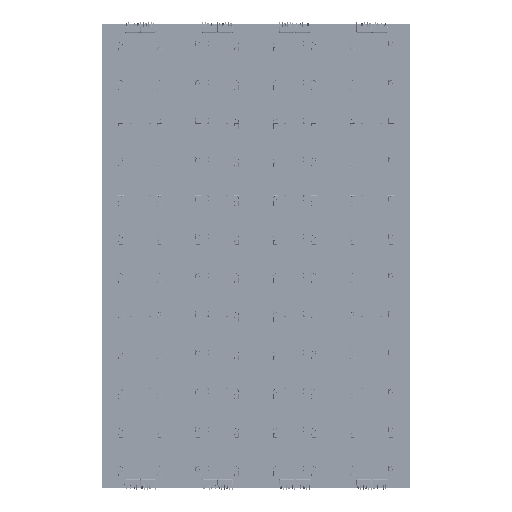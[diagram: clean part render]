
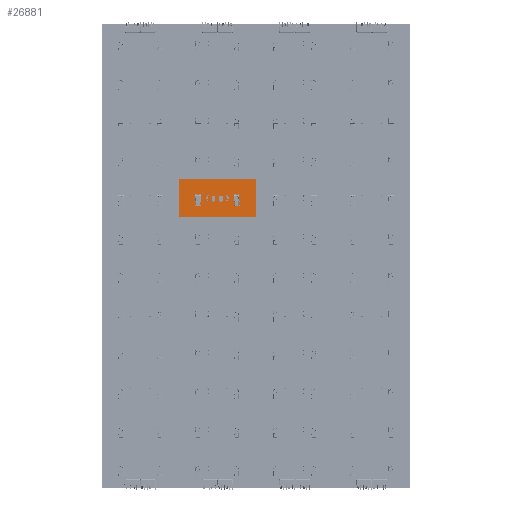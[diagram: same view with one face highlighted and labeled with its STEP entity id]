
A CAD part, top view. The second image highlights one B-rep face of the part: STEP entity #26881.
In plain terms, the highlighted planar face has unit normal (0, 0, 1).
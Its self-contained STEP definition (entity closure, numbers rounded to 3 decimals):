
#8459 = FACE_OUTER_BOUND ( 'NONE', #143407, .T. ) ;
#11867 = VECTOR ( 'NONE', #58748, 1000. ) ;
#24620 = DIRECTION ( 'NONE',  ( 0., 0., 1. ) ) ;
#26881 = ADVANCED_FACE ( 'NONE', ( #8459 ), #74662, .T. ) ;
#26909 = VECTOR ( 'NONE', #49569, 1000. ) ;
#27643 = LINE ( 'NONE', #73871, #116413 ) ;
#34205 = DIRECTION ( 'NONE',  ( 1., 0., 0. ) ) ;
#34643 = VERTEX_POINT ( 'NONE', #144884 ) ;
#35903 = LINE ( 'NONE', #37334, #128207 ) ;
#36445 = CARTESIAN_POINT ( 'NONE',  ( 80., 0., 0.411 ) ) ;
#37054 = EDGE_CURVE ( 'NONE', #42239, #93250, #27643, .T. ) ;
#37334 = CARTESIAN_POINT ( 'NONE',  ( 0., 0., 0.411 ) ) ;
#38594 = LINE ( 'NONE', #36445, #26909 ) ;
#40235 = ORIENTED_EDGE ( 'NONE', *, *, #118177, .T. ) ;
#42239 = VERTEX_POINT ( 'NONE', #108209 ) ;
#49569 = DIRECTION ( 'NONE',  ( 0., 1., 0. ) ) ;
#52257 = ORIENTED_EDGE ( 'NONE', *, *, #37054, .T. ) ;
#55873 = CARTESIAN_POINT ( 'NONE',  ( 0., 0., 0.411 ) ) ;
#58748 = DIRECTION ( 'NONE',  ( 1., 0., 0. ) ) ;
#73871 = CARTESIAN_POINT ( 'NONE',  ( 0., 40., 0.411 ) ) ;
#74662 = PLANE ( 'NONE',  #112978 ) ;
#79214 = CARTESIAN_POINT ( 'NONE',  ( 0., 0., 0.411 ) ) ;
#80042 = LINE ( 'NONE', #55873, #11867 ) ;
#80151 = ORIENTED_EDGE ( 'NONE', *, *, #102263, .T. ) ;
#87477 = CARTESIAN_POINT ( 'NONE',  ( 0., 40., 0.411 ) ) ;
#93250 = VERTEX_POINT ( 'NONE', #87477 ) ;
#95162 = DIRECTION ( 'NONE',  ( -1., 0., 0. ) ) ;
#101706 = CARTESIAN_POINT ( 'NONE',  ( 0., 0., 0.411 ) ) ;
#102263 = EDGE_CURVE ( 'NONE', #34643, #42239, #38594, .T. ) ;
#104580 = ORIENTED_EDGE ( 'NONE', *, *, #109660, .T. ) ;
#104851 = DIRECTION ( 'NONE',  ( 0., -1., 0. ) ) ;
#108209 = CARTESIAN_POINT ( 'NONE',  ( 80., 40., 0.411 ) ) ;
#109660 = EDGE_CURVE ( 'NONE', #118731, #34643, #80042, .T. ) ;
#112978 = AXIS2_PLACEMENT_3D ( 'NONE', #101706, #24620, #34205 ) ;
#116413 = VECTOR ( 'NONE', #95162, 1000. ) ;
#118177 = EDGE_CURVE ( 'NONE', #93250, #118731, #35903, .T. ) ;
#118731 = VERTEX_POINT ( 'NONE', #79214 ) ;
#128207 = VECTOR ( 'NONE', #104851, 1000. ) ;
#143407 = EDGE_LOOP ( 'NONE', ( #52257, #40235, #104580, #80151 ) ) ;
#144884 = CARTESIAN_POINT ( 'NONE',  ( 80., 0., 0.411 ) ) ;
